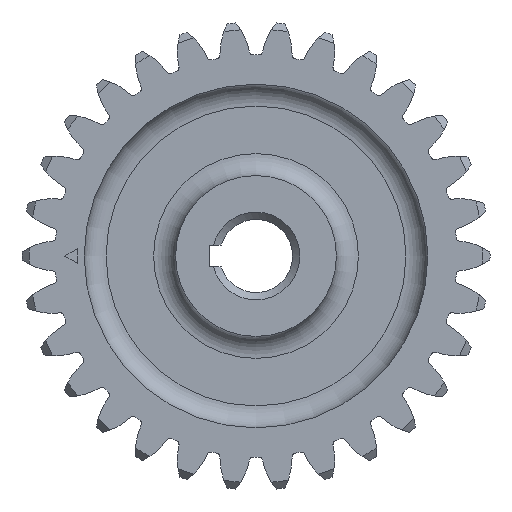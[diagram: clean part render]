
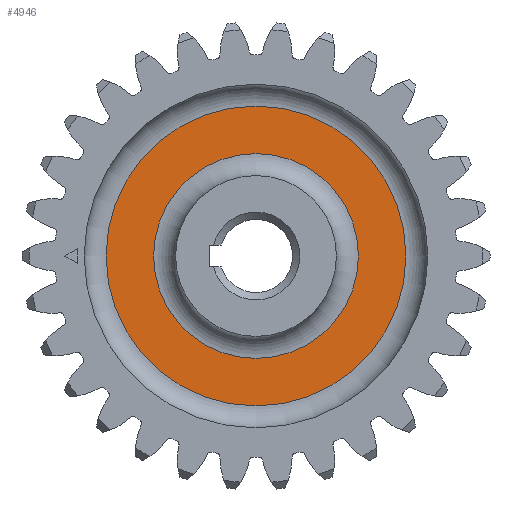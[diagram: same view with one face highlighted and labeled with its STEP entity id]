
A CAD part, left-side view. The second image highlights one B-rep face of the part: STEP entity #4946.
In plain terms, the highlighted planar face has unit normal (-1, 0, 0).
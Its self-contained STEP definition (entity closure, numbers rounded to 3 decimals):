
#143=FACE_BOUND('',#1374,.T.);
#762=CIRCLE('',#5667,14.);
#763=CIRCLE('',#5669,20.5);
#1101=FACE_OUTER_BOUND('',#1373,.T.);
#1373=EDGE_LOOP('',(#4452));
#1374=EDGE_LOOP('',(#4453));
#2319=VERTEX_POINT('',#9227);
#2320=VERTEX_POINT('',#9231);
#3093=EDGE_CURVE('',#2319,#2319,#762,.T.);
#3094=EDGE_CURVE('',#2320,#2320,#763,.T.);
#4452=ORIENTED_EDGE('',*,*,#3094,.F.);
#4453=ORIENTED_EDGE('',*,*,#3093,.T.);
#4684=PLANE('',#5668);
#4946=ADVANCED_FACE('',(#1101,#143),#4684,.T.);
#5667=AXIS2_PLACEMENT_3D('',#9229,#7279,#7280);
#5668=AXIS2_PLACEMENT_3D('',#9230,#7281,#7282);
#5669=AXIS2_PLACEMENT_3D('',#9232,#7283,#7284);
#7279=DIRECTION('center_axis',(1.,0.,0.));
#7280=DIRECTION('ref_axis',(0.,0.,-1.));
#7281=DIRECTION('center_axis',(-1.,0.,0.));
#7282=DIRECTION('ref_axis',(0.,0.,1.));
#7283=DIRECTION('center_axis',(1.,0.,0.));
#7284=DIRECTION('ref_axis',(0.,0.,-1.));
#9227=CARTESIAN_POINT('',(-4.,0.,14.));
#9229=CARTESIAN_POINT('Origin',(-4.,0.,
0.));
#9230=CARTESIAN_POINT('Origin',(-4.,20.5,0.));
#9231=CARTESIAN_POINT('',(-4.,0.,20.5));
#9232=CARTESIAN_POINT('Origin',(-4.,0.,
0.));
